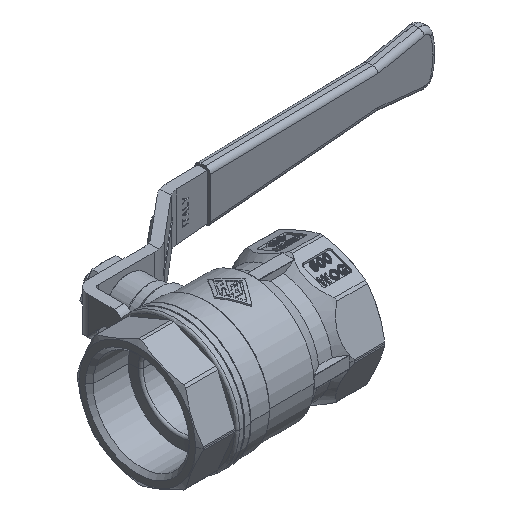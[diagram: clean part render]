
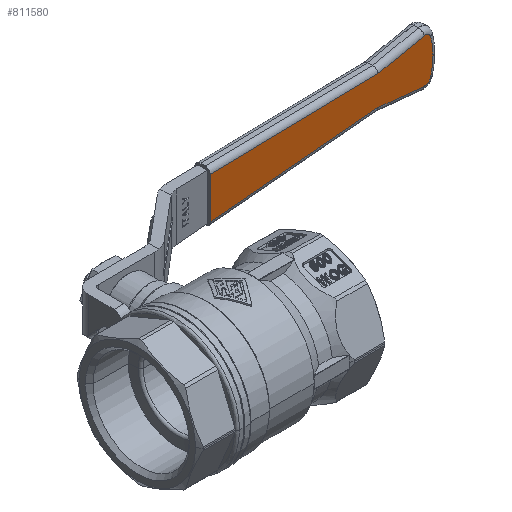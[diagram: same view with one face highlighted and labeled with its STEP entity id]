
A CAD part, isometric view. The second image highlights one B-rep face of the part: STEP entity #811580.
In plain terms, the highlighted planar face has unit normal (0.052, -0.999, 0) as drawn and (-0.052, -0.999, 0) by its records, which use the part's own axes.
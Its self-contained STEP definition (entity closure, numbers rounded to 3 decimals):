
#808770=CARTESIAN_POINT('',(-53.,61.46,-8.433));
#808780=VERTEX_POINT('',#808770);
#808810=CARTESIAN_POINT('',(-53.,61.46,0.))
;
#808820=DIRECTION('',(0.,0.,1.));
#808830=VECTOR('',#808820,1.);
#808840=LINE('',#808810,#808830);
#808850=CARTESIAN_POINT('',(-53.,61.46,8.433));
#808860=VERTEX_POINT('',#808850);
#808870=EDGE_CURVE('',#808780,#808860,#808840,.T.);
#810060=CARTESIAN_POINT('',(-125.318,65.25,
-5.998));
#810070=VERTEX_POINT('',#810060);
#810100=CARTESIAN_POINT('',(-0.105,58.687,
-10.215));
#810110=DIRECTION('',(-0.998,0.052,
0.034));
#810120=VECTOR('',#810110,1.);
#810130=LINE('',#810100,#810120);
#810140=EDGE_CURVE('',#808780,#810070,#810130,.T.);
#810960=CARTESIAN_POINT('',(-151.051,66.598,
0.));
#810970=DIRECTION('',(-0.052,-0.999,0.));
#810980=DIRECTION('',(0.999,-0.052,-0.));
#810990=AXIS2_PLACEMENT_3D('',#810960,#810970,#810980);
#811000=PLANE('',#810990);
#811010=CARTESIAN_POINT('',(-0.105,58.687,
12.566));
#811020=DIRECTION('',(-0.988,0.052,
-0.146));
#811030=VECTOR('',#811020,1.);
#811040=LINE('',#811010,#811030);
#811050=CARTESIAN_POINT('',(-145.193,66.291,
-8.944));
#811060=VERTEX_POINT('',#811050);
#811070=EDGE_CURVE('',#810070,#811060,#811040,.T.);
#811080=ORIENTED_EDGE('',*,*,#811070,.F.);
#811090=CARTESIAN_POINT('',(-145.559,66.31,
-6.471));
#811100=DIRECTION('',(0.052,0.999,0.));
#811110=DIRECTION('',(-0.999,0.052,0.));
#811120=AXIS2_PLACEMENT_3D('',#811090,#811100,#811110);
#811130=CIRCLE('',#811120,2.5);
#811140=CARTESIAN_POINT('',(-147.939,66.435,
-7.223));
#811150=VERTEX_POINT('',#811140);
#811160=EDGE_CURVE('',#811060,#811150,#811130,.T.);
#811170=ORIENTED_EDGE('',*,*,#811160,.F.);
#811180=CARTESIAN_POINT('',(-125.084,65.237,
0.));
#811190=DIRECTION('',(0.052,0.999,0.));
#811200=DIRECTION('',(-0.999,0.052,0.));
#811210=AXIS2_PLACEMENT_3D('',#811180,#811190,#811200);
#811220=CIRCLE('',#811210,24.);
#811230=CARTESIAN_POINT('',(-149.051,66.493,
0.));
#811240=VERTEX_POINT('',#811230);
#811250=EDGE_CURVE('',#811150,#811240,#811220,.T.);
#811260=ORIENTED_EDGE('',*,*,#811250,.F.);
#811270=CARTESIAN_POINT('',(-147.939,66.435,
7.223));
#811280=VERTEX_POINT('',#811270);
#811290=EDGE_CURVE('',#811240,#811280,#811220,.T.);
#811300=ORIENTED_EDGE('',*,*,#811290,.F.);
#811310=CARTESIAN_POINT('',(-145.559,66.31,
6.471));
#811320=DIRECTION('',(0.052,0.999,0.));
#811330=DIRECTION('',(-0.999,0.052,0.));
#811340=AXIS2_PLACEMENT_3D('',#811310,#811320,#811330);
#811350=CIRCLE('',#811340,2.5);
#811360=CARTESIAN_POINT('',(-145.193,66.291,
8.944));
#811370=VERTEX_POINT('',#811360);
#811380=EDGE_CURVE('',#811280,#811370,#811350,.T.);
#811390=ORIENTED_EDGE('',*,*,#811380,.F.);
#811400=CARTESIAN_POINT('',(-0.105,58.687,
-12.566));
#811410=DIRECTION('',(0.988,-0.052,
-0.146));
#811420=VECTOR('',#811410,1.);
#811430=LINE('',#811400,#811420);
#811440=CARTESIAN_POINT('',(-125.318,65.25,
5.998));
#811450=VERTEX_POINT('',#811440);
#811460=EDGE_CURVE('',#811370,#811450,#811430,.T.);
#811470=ORIENTED_EDGE('',*,*,#811460,.F.);
#811480=CARTESIAN_POINT('',(-0.105,58.687,
10.215));
#811490=DIRECTION('',(0.998,-0.052,
0.034));
#811500=VECTOR('',#811490,1.);
#811510=LINE('',#811480,#811500);
#811520=EDGE_CURVE('',#811450,#808860,#811510,.T.);
#811530=ORIENTED_EDGE('',*,*,#811520,.F.);
#811540=ORIENTED_EDGE('',*,*,#808870,.T.);
#811550=ORIENTED_EDGE('',*,*,#810140,.F.);
#811560=EDGE_LOOP('',(#811550,#811540,#811530,#811470,#811390,#811300,
#811260,#811170,#811080));
#811570=FACE_OUTER_BOUND('',#811560,.T.);
#811580=ADVANCED_FACE('',(#811570),#811000,.T.);
